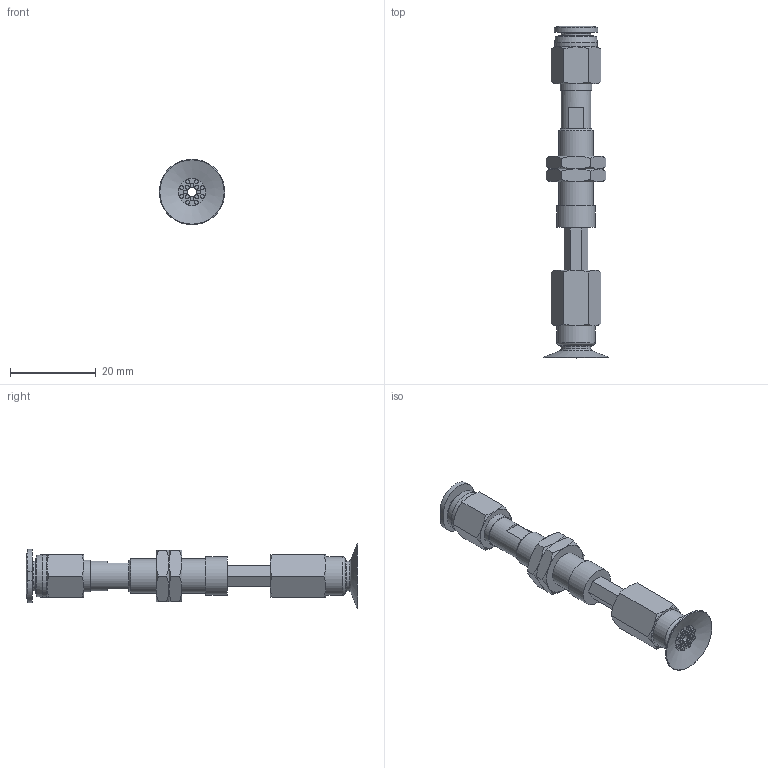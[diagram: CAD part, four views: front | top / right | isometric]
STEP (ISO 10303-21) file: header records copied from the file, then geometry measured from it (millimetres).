
FILE_DESCRIPTION(('STEP AP203'),'1');
FILE_NAME('-O.stp','2025-08-12T08:18:58',(' '),(' '),'Spatial InterOp 3D',' ',' ');
FILE_SCHEMA(('CONFIG_CONTROL_DESIGN'));
Length unit declared in the file: millimetre
Products named in the file (7): BNABPATH-15A-10-※-O; NAPATH-10A-10--F; Nut-10A-S; PC-C_06-M5; BPAG-15A-※; NAPATH-10A-10--M; ADAPTER
Assembly tree (7 placements, depth 2):
  BNABPATH-15A-10-※-O
    NAPATH-10A-10--F
    Nut-10A-S  x2
    PC-C_06-M5
    BPAG-15A-※
    NAPATH-10A-10--M
    ADAPTER
Bounding box: 15.3 x 77.48 x 15.3 mm (x, y, z)
Volume: 4332.4 mm3; surface area: 5432.2 mm2
Topology: 7 solids, 7 shells, 205 faces, 411 edges, 252 vertices
Faces by surface type: plane 86, cone 61, cylinder 40, torus 11, bspline 4, revolution 3
Full cylindrical faces by diameter (mm): 0.9 x16, 2 x3, 4 x4, 4.134 x1, 5 x1, 6 x2, 7 x3, 7.188 x2, 7.4 x1, 8 x1, 8.2 x1, 9 x2, 10 x1
Entity records: 5100 total; most frequent: CARTESIAN_POINT 1345, DIRECTION 715, ORIENTED_EDGE 584, AXIS2_PLACEMENT_3D 320, EDGE_CURVE 292, EDGE_LOOP 284, FACE_OUTER_BOUND 230, VERTEX_POINT 214
